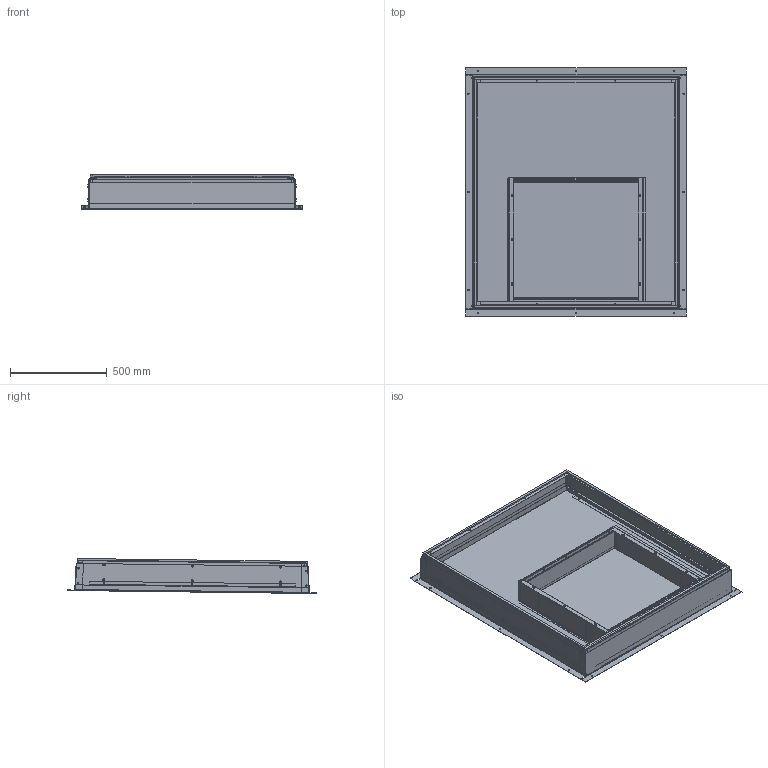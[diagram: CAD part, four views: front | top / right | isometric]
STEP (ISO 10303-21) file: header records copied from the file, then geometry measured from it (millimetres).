
FILE_DESCRIPTION (( 'STEP AP214' ), '1' );
FILE_NAME ('IWS-A WALL SLEEVE 6.0-8.5.STEP', '2016-07-14T15:52:16', ( 'BMC' ), ( 'Bard Manufacturing Co., Inc.' ), 'SwSTEP 2.0', 'SolidWorks 2016', '' );
FILE_SCHEMA (( 'AUTOMOTIVE_DESIGN' ));
Length unit declared in the file: inch
Products named in the file (19): 5021-1688; 110-188; 110-187; MWS0609 unit inner; 1913-013-4600; 1913-013-4108; 1012-110; 110-185; 110-186; IWS-A WALL SLEEVE 6.0-8.5; 106-292; MWS0609 unit outer; 110-183; 104-1257; 110-184; MWS0609 fan sleeve assembly; MWS0609 fan inner; 110-189; MWS0609 fan outer
Assembly tree (65 placements, depth 4):
  IWS-A WALL SLEEVE 6.0-8.5
    MWS0609 unit inner
      110-186  x2
      110-185  x2
      1012-110  x12
      1913-013-4108  x2
      1913-013-4600  x2
    MWS0609 fan sleeve assembly
      MWS0609 fan outer
        110-187  x2
        110-188  x2
        5021-1688
        1012-110  x8
      MWS0609 fan inner
        110-189  x2
        1012-110  x4
    MWS0609 unit outer
      110-184  x2
      1012-110  x14
      104-1257  x2
      110-183  x2
    106-292
Bounding box: 1143.35 x 1287.37 x 180.7 mm (x, y, z)
Surface area: 7601979.2 mm2 (no closed solid volume)
Topology: 0 solids, 60 shells, 1464 faces, 3532 edges, 2326 vertices
Faces by surface type: cylinder 650, plane 546, torus 152, bspline 116
Entity records: 19856 total; most frequent: CARTESIAN_POINT 5743, DIRECTION 2931, ORIENTED_EDGE 2672, EDGE_CURVE 1336, AXIS2_PLACEMENT_3D 1121, VERTEX_POINT 853, EDGE_LOOP 701, VECTOR 689
